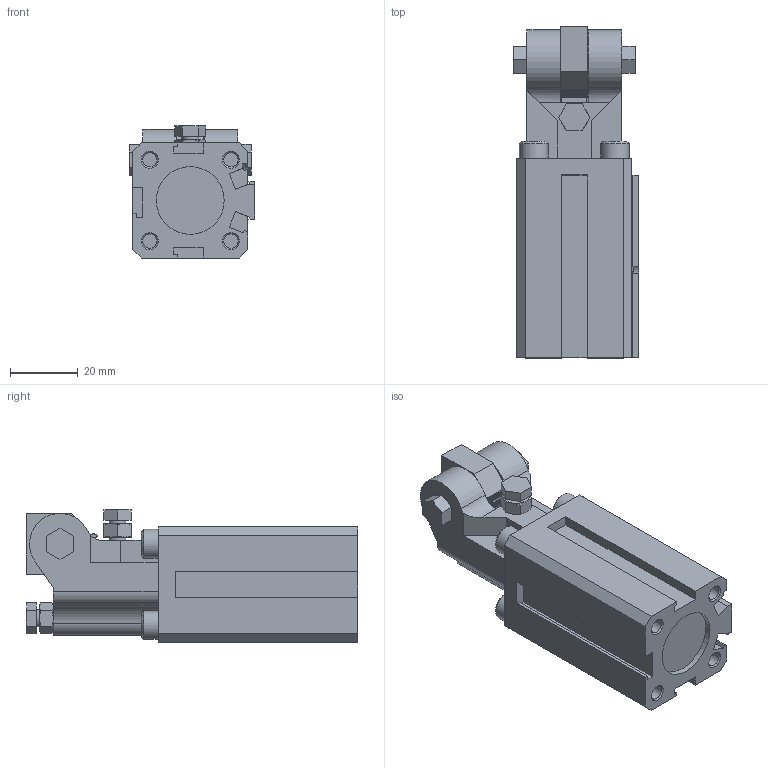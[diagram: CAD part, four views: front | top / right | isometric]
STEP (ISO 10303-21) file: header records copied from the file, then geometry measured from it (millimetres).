
FILE_DESCRIPTION(/* description */ (''),/* implementation_level */ '2;1');
FILE_NAME(/* name */ 'DHR2C-20-M30.stp',/* time_stamp */ '2024-07-13T10:10:33+08:00',/* author */ (''),/* organization */ (''),/* preprocessor_version */ 'ST-DEVELOPER v15',/* originating_system */ 'SIEMENS PLM Software NX 10.0',/* authorisation */ '');
FILE_SCHEMA (('AP203_CONFIGURATION_CONTROLLED_3D_DESIGN_OF_MECHANICAL_PARTS_AND_ASSEMBLIES_MIM_LF { 1 0 10303 403 2 1 2}'));
Length unit declared in the file: millimetre
Products named in the file (1): Admi052038F5jd4m
Bounding box: 37 x 98 x 39 mm (x, y, z)
Volume: 68940.1 mm3; surface area: 27994.4 mm2
Topology: 2 solids, 3 shells, 1192 faces, 3432 edges, 2276 vertices
Faces by surface type: plane 1070, cylinder 75, cone 47
Full cylindrical faces by diameter (mm): 2 x2, 3.3 x2, 4.2 x6, 5 x4, 8 x4, 8.5 x4, 20 x2
Entity records: 38258 total; most frequent: CARTESIAN_POINT 7135, ORIENTED_EDGE 6732, DIRECTION 5882, EDGE_CURVE 3366, LINE 3092, VECTOR 3092, VERTEX_POINT 2258, AXIS2_PLACEMENT_3D 1395
